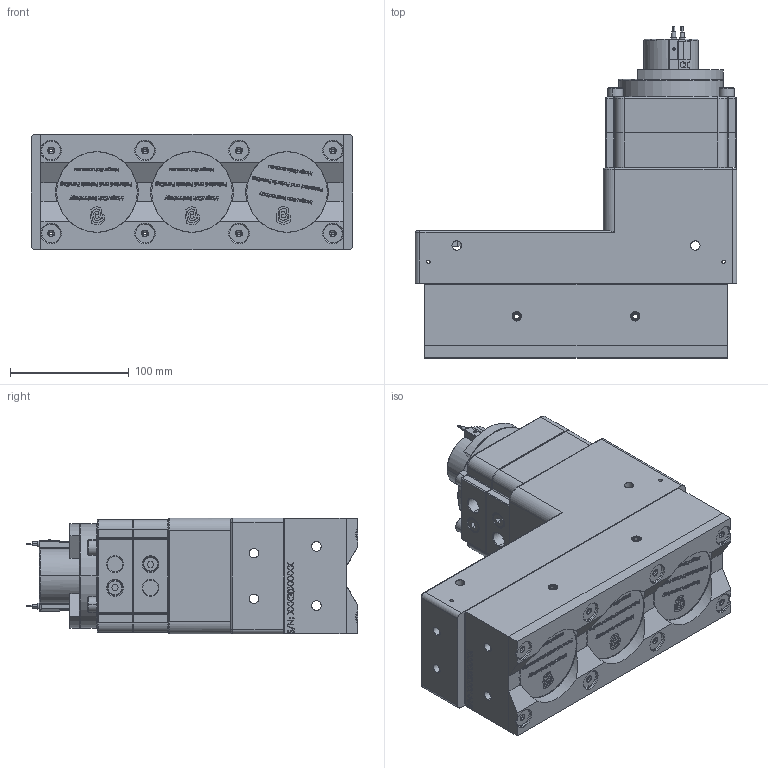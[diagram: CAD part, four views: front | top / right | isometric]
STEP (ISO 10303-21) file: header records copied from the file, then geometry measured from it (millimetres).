
FILE_DESCRIPTION (( 'STEP AP203' ), '1' );
FILE_NAME ('8140392_p.STEP', '2014-05-29T19:09:35', ( '' ), ( '' ), 'SwSTEP 2.0', 'SolidWorks 2013', '' );
FILE_SCHEMA (( 'CONFIG_CONTROL_DESIGN' ));
Products named in the file (1): 8140392_p
Bounding box: 271.3 x 280 x 97.6 mm (x, y, z)
Surface area: 258090.2 mm2 (no closed solid volume)
Topology: 0 solids, 125 shells, 1649 faces, 8629 edges, 6931 vertices
Faces by surface type: plane 841, cylinder 277, bspline 254, cone 232, torus 37, sphere 8
Entity records: 120081 total; most frequent: CARTESIAN_POINT 60204, ORIENTED_EDGE 11209, DIRECTION 9645, EDGE_CURVE 8621, VERTEX_POINT 6931, LINE 4677, VECTOR 4677, B_SPLINE_CURVE_WITH_KNOTS 2842
